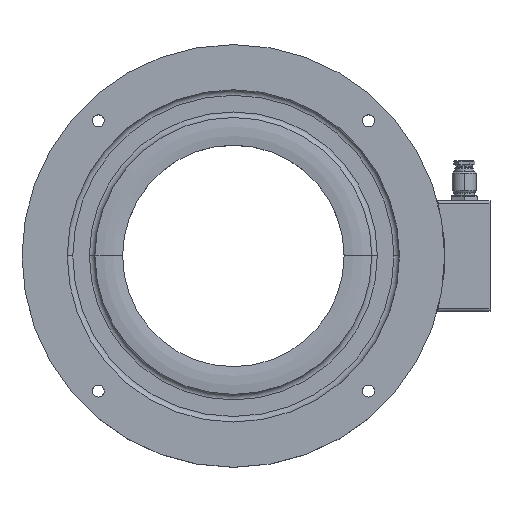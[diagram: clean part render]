
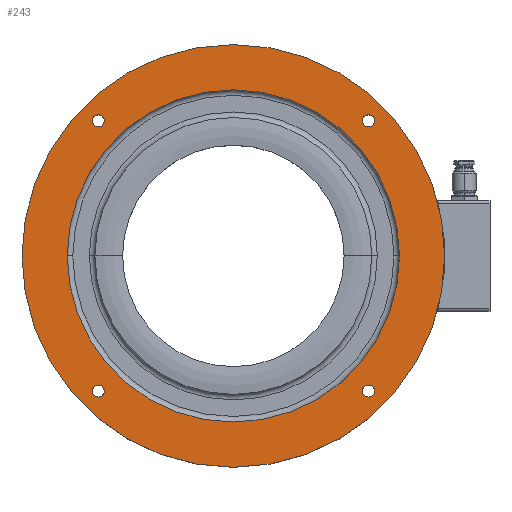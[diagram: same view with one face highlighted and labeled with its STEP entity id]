
A CAD part, top view. The second image highlights one B-rep face of the part: STEP entity #243.
In plain terms, the highlighted planar face has unit normal (0, 0, 1) as drawn and (0, 1, 0) by its records, which use the part's own axes.
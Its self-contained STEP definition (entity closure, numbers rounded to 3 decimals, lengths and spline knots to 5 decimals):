
#243=ADVANCED_FACE('0:66',(#510,#511,#512,#513,#514,#515),#516,.T.);
#510=FACE_OUTER_BOUND('',#841,.T.);
#511=FACE_BOUND('',#842,.T.);
#512=FACE_BOUND('',#843,.T.);
#513=FACE_BOUND('',#844,.T.);
#514=FACE_BOUND('',#845,.T.);
#515=FACE_BOUND('',#846,.T.);
#516=PLANE('',#847);
#841=EDGE_LOOP('',(#1270,#1271));
#842=EDGE_LOOP('',(#1272,#1273));
#843=EDGE_LOOP('',(#1274,#1275));
#844=EDGE_LOOP('',(#1276,#1277));
#845=EDGE_LOOP('',(#1278,#1279));
#846=EDGE_LOOP('',(#1280,#1281));
#847=AXIS2_PLACEMENT_3D('',#1282,#1283,#1284);
#1270=ORIENTED_EDGE('',*,*,#1944,.F.);
#1271=ORIENTED_EDGE('',*,*,#1999,.F.);
#1272=ORIENTED_EDGE('',*,*,#1964,.F.);
#1273=ORIENTED_EDGE('',*,*,#1990,.F.);
#1274=ORIENTED_EDGE('',*,*,#1969,.F.);
#1275=ORIENTED_EDGE('',*,*,#1987,.F.);
#1276=ORIENTED_EDGE('',*,*,#1974,.F.);
#1277=ORIENTED_EDGE('',*,*,#1984,.F.);
#1278=ORIENTED_EDGE('',*,*,#1979,.F.);
#1279=ORIENTED_EDGE('',*,*,#1981,.F.);
#1280=ORIENTED_EDGE('',*,*,#1927,.T.);
#1281=ORIENTED_EDGE('',*,*,#2006,.T.);
#1282=CARTESIAN_POINT('',(0.09,0.04,0.0));
#1283=DIRECTION('',(0.,1.0,0.));
#1284=DIRECTION('',(1.0,0.0,0.));
#1927=EDGE_CURVE('0:132',#2247,#2244,#2248,.T.);
#1944=EDGE_CURVE('0:120',#2274,#2270,#2276,.T.);
#1964=EDGE_CURVE('0:99',#2306,#2302,#2308,.F.);
#1969=EDGE_CURVE('0:93',#2315,#2311,#2317,.F.);
#1974=EDGE_CURVE('0:87',#2324,#2320,#2326,.F.);
#1979=EDGE_CURVE('0:81',#2333,#2329,#2335,.F.);
#1981=EDGE_CURVE('',#2329,#2333,#2337,.F.);
#1984=EDGE_CURVE('',#2320,#2324,#2340,.F.);
#1987=EDGE_CURVE('',#2311,#2315,#2343,.F.);
#1990=EDGE_CURVE('',#2302,#2306,#2346,.F.);
#1999=EDGE_CURVE('',#2270,#2274,#2355,.T.);
#2006=EDGE_CURVE('',#2244,#2247,#2362,.T.);
#2244=VERTEX_POINT('',#2692);
#2247=VERTEX_POINT('',#2695);
#2248=CIRCLE('',#2696,0.09);
#2270=VERTEX_POINT('',#2720);
#2274=VERTEX_POINT('NONE',#2725);
#2276=CIRCLE('',#2728,0.1145);
#2302=VERTEX_POINT('',#2758);
#2306=VERTEX_POINT('NONE',#2763);
#2308=CIRCLE('',#2766,0.00325);
#2311=VERTEX_POINT('',#2769);
#2315=VERTEX_POINT('NONE',#2774);
#2317=CIRCLE('',#2777,0.00325);
#2320=VERTEX_POINT('',#2780);
#2324=VERTEX_POINT('NONE',#2785);
#2326=CIRCLE('',#2788,0.00325);
#2329=VERTEX_POINT('',#2791);
#2333=VERTEX_POINT('NONE',#2796);
#2335=CIRCLE('',#2799,0.00325);
#2337=CIRCLE('',#2801,0.00325);
#2340=CIRCLE('',#2804,0.00325);
#2343=CIRCLE('',#2807,0.00325);
#2346=CIRCLE('',#2810,0.00325);
#2355=CIRCLE('',#2819,0.1145);
#2362=CIRCLE('',#2826,0.09);
#2692=CARTESIAN_POINT('',(-0.09,0.04,0.));
#2695=CARTESIAN_POINT('',(0.09,0.04,0.));
#2696=AXIS2_PLACEMENT_3D('',#3282,#3283,#3284);
#2720=CARTESIAN_POINT('',(0.1145,0.04,0.));
#2725=CARTESIAN_POINT('',(-0.1145,0.04,0.));
#2728=AXIS2_PLACEMENT_3D('',#3316,#3317,#3318);
#2758=CARTESIAN_POINT('',(-0.07319,0.04,0.07644));
#2763=CARTESIAN_POINT('',(-0.07319,0.04,0.06994));
#2766=AXIS2_PLACEMENT_3D('',#3352,#3353,#3354);
#2769=CARTESIAN_POINT('',(0.07319,0.04,0.07644));
#2774=CARTESIAN_POINT('',(0.07319,0.04,0.06994));
#2777=AXIS2_PLACEMENT_3D('',#3360,#3361,#3362);
#2780=CARTESIAN_POINT('',(0.07319,0.04,-0.06994));
#2785=CARTESIAN_POINT('',(0.07319,0.04,-0.07644));
#2788=AXIS2_PLACEMENT_3D('',#3368,#3369,#3370);
#2791=CARTESIAN_POINT('',(-0.07319,0.04,-0.06994));
#2796=CARTESIAN_POINT('',(-0.07319,0.04,-0.07644));
#2799=AXIS2_PLACEMENT_3D('',#3376,#3377,#3378);
#2801=AXIS2_PLACEMENT_3D('',#3379,#3380,#3381);
#2804=AXIS2_PLACEMENT_3D('',#3385,#3386,#3387);
#2807=AXIS2_PLACEMENT_3D('',#3391,#3392,#3393);
#2810=AXIS2_PLACEMENT_3D('',#3397,#3398,#3399);
#2819=AXIS2_PLACEMENT_3D('',#3412,#3413,#3414);
#2826=AXIS2_PLACEMENT_3D('',#3424,#3425,#3426);
#3282=CARTESIAN_POINT('',(0.,0.04,0.0));
#3283=DIRECTION('',(0.0,-1.0,0.0));
#3284=DIRECTION('',(1.0,0.0,0.0));
#3316=CARTESIAN_POINT('',(0.,0.04,0.0));
#3317=DIRECTION('',(0.0,-1.0,0.0));
#3318=DIRECTION('',(1.0,0.0,0.0));
#3352=CARTESIAN_POINT('',(-0.07319,0.04,0.07319));
#3353=DIRECTION('',(0.,-1.0,0.));
#3354=DIRECTION('',(0.,0.,1.0));
#3360=CARTESIAN_POINT('',(0.07319,0.04,0.07319));
#3361=DIRECTION('',(0.,-1.0,0.));
#3362=DIRECTION('',(0.,0.,1.0));
#3368=CARTESIAN_POINT('',(0.07319,0.04,-0.07319));
#3369=DIRECTION('',(0.,-1.0,0.));
#3370=DIRECTION('',(0.,0.,1.0));
#3376=CARTESIAN_POINT('',(-0.07319,0.04,-0.07319));
#3377=DIRECTION('',(0.,-1.0,0.));
#3378=DIRECTION('',(0.,0.,1.0));
#3379=CARTESIAN_POINT('',(-0.07319,0.04,-0.07319));
#3380=DIRECTION('',(0.,-1.0,0.));
#3381=DIRECTION('',(0.,0.,1.0));
#3385=CARTESIAN_POINT('',(0.07319,0.04,-0.07319));
#3386=DIRECTION('',(0.,-1.0,0.));
#3387=DIRECTION('',(0.,0.,1.0));
#3391=CARTESIAN_POINT('',(0.07319,0.04,0.07319));
#3392=DIRECTION('',(0.,-1.0,0.));
#3393=DIRECTION('',(0.,0.,1.0));
#3397=CARTESIAN_POINT('',(-0.07319,0.04,0.07319));
#3398=DIRECTION('',(0.,-1.0,0.));
#3399=DIRECTION('',(0.,0.,1.0));
#3412=CARTESIAN_POINT('',(0.,0.04,0.0));
#3413=DIRECTION('',(0.0,-1.0,0.0));
#3414=DIRECTION('',(1.0,0.0,0.0));
#3424=CARTESIAN_POINT('',(0.,0.04,0.0));
#3425=DIRECTION('',(0.0,-1.0,0.0));
#3426=DIRECTION('',(1.0,0.0,0.0));
